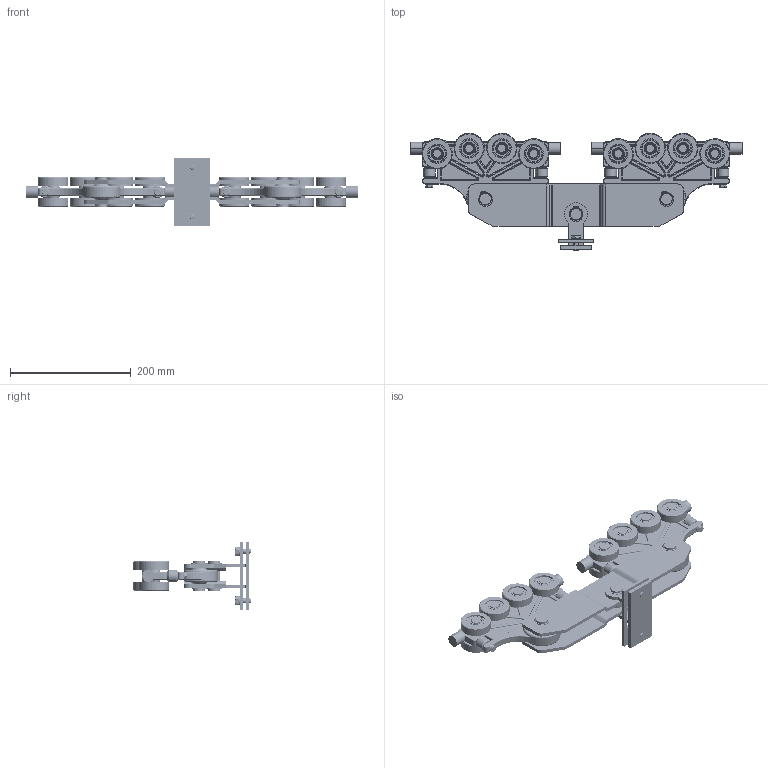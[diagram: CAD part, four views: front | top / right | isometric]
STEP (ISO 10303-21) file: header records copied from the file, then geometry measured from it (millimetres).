
FILE_DESCRIPTION (( 'STEP AP203' ), '1' );
FILE_NAME ('900.200.202.STEP', '2015-05-25T11:36:49', ( '' ), ( '' ), 'SwSTEP 2.0', 'SolidWorks 2012', '' );
FILE_SCHEMA (( 'CONFIG_CONTROL_DESIGN' ));
Products named in the file (1): 900.200.202
Bounding box: 550 x 194.38 x 112 mm (x, y, z)
Volume: 1299493.5 mm3; surface area: 489446.1 mm2
Topology: 121 solids, 121 shells, 3318 faces, 7406 edges, 4548 vertices
Faces by surface type: cylinder 1244, plane 822, cone 500, torus 432, bspline 320
Entity records: 105855 total; most frequent: CARTESIAN_POINT 31469, DIRECTION 16592, ORIENTED_EDGE 14748, EDGE_CURVE 7374, AXIS2_PLACEMENT_3D 7023, VERTEX_POINT 4548, CIRCLE 4024, EDGE_LOOP 3838
